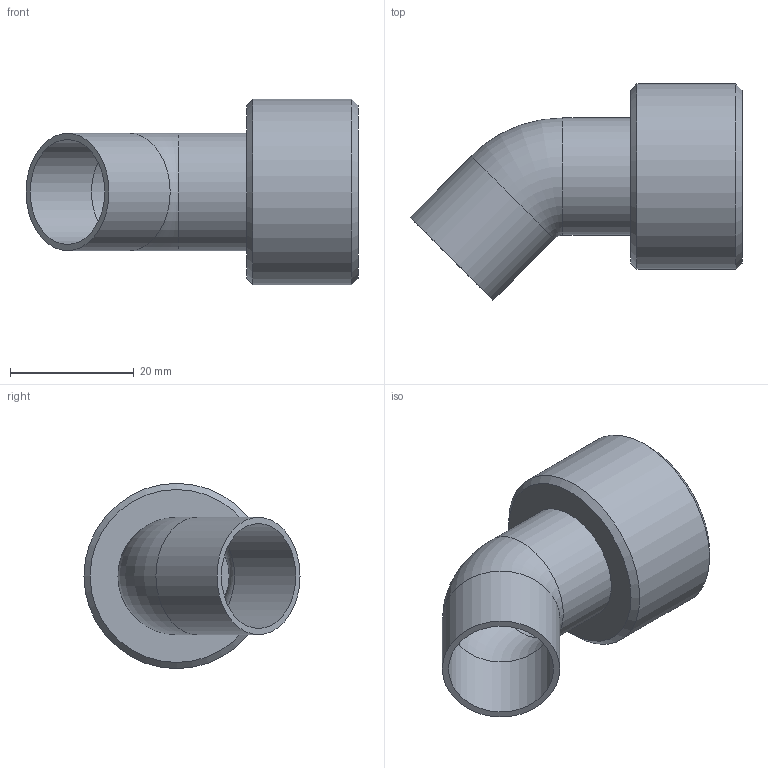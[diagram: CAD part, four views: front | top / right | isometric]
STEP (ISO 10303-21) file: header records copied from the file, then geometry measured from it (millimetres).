
FILE_DESCRIPTION( ( 'STEP AP203' ), '1' );
FILE_NAME( 'C:/Temp/Ganter_Step_05_03_2020/data/3_5/gn880_1/gn880_1_ans/gn880_1_b/Connector piece withot drain hose GN 880.1-26-B.stp', '2020-03-12T13:42:25', ( 'License CC BY-ND 4.0' ), ( 'CADENAS' ), ' ', 'PARTsolutions', ' ' );
FILE_SCHEMA( ( 'CONFIG_CONTROL_DESIGN' ) );
Length unit declared in the file: millimetre
Products named in the file (3): Connector piece withot drain hose GN 880.1-26-B; _Anschlussstueck ohne Ablassschlauch GN 880.1-26-B_a; _Anschlussstueck ohne Ablassschlauch GN 880.1-26-B_dk2
Assembly tree (2 placements, depth 2):
  Connector piece withot drain hose GN 880.1-26-B
    _Anschlussstueck ohne Ablassschlauch GN 880.1-26-B_a
    _Anschlussstueck ohne Ablassschlauch GN 880.1-26-B_dk2
Bounding box: 53.75 x 34.99 x 30 mm (x, y, z)
Volume: 10363.8 mm3; surface area: 10275.9 mm2
Topology: 2 solids, 2 shells, 33 faces, 54 edges, 34 vertices
Faces by surface type: plane 13, cylinder 13, torus 4, cone 3
Full cylindrical faces by diameter (mm): 11.5 x1, 12.9 x1, 13 x2, 17 x2, 19 x4, 22 x1, 24.376 x1, 30 x1
Entity records: 770 total; most frequent: DIRECTION 136, CARTESIAN_POINT 101, AXIS2_PLACEMENT_3D 68, EDGE_LOOP 64, ORIENTED_EDGE 64, FACE_OUTER_BOUND 50, ADVANCED_FACE 33, VERTEX_POINT 33
